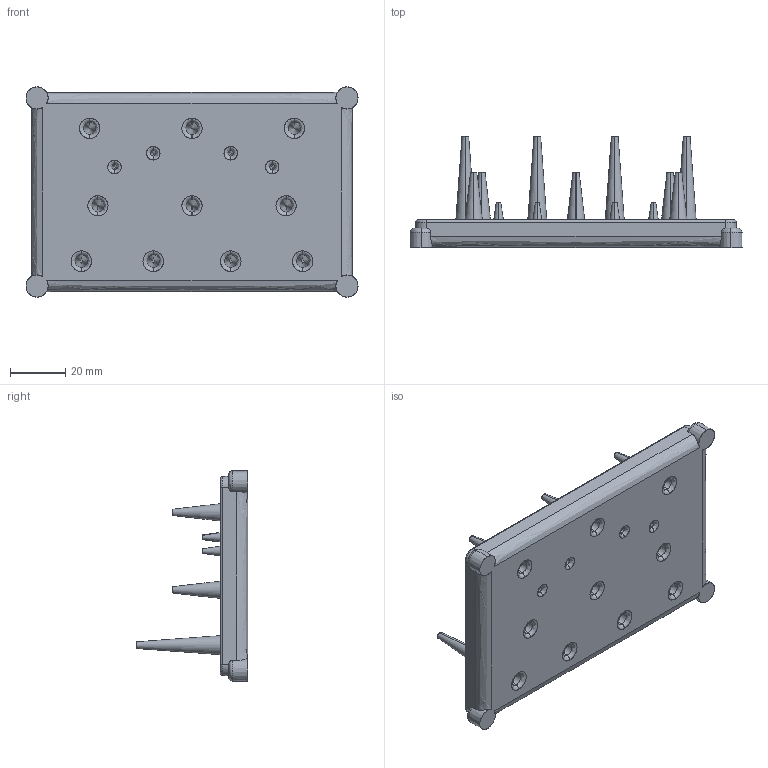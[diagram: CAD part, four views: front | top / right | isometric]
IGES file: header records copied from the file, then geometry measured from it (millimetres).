
Global section: file name: Filename.iges; native system: Open CASCADE 6.9; preprocessor: Open CASCADE IGES processor 6.9; author: root; date: 20160726.174437; units: metre
Bounding box: 120 x 40.4 x 76 mm (x, y, z)
Surface area: 29712.8 mm2 (no closed solid volume)
Topology: 0 solids, 0 shells, 467 faces, 6561 edges, 6561 vertices
Faces by surface type: bspline 371, revolution 96
